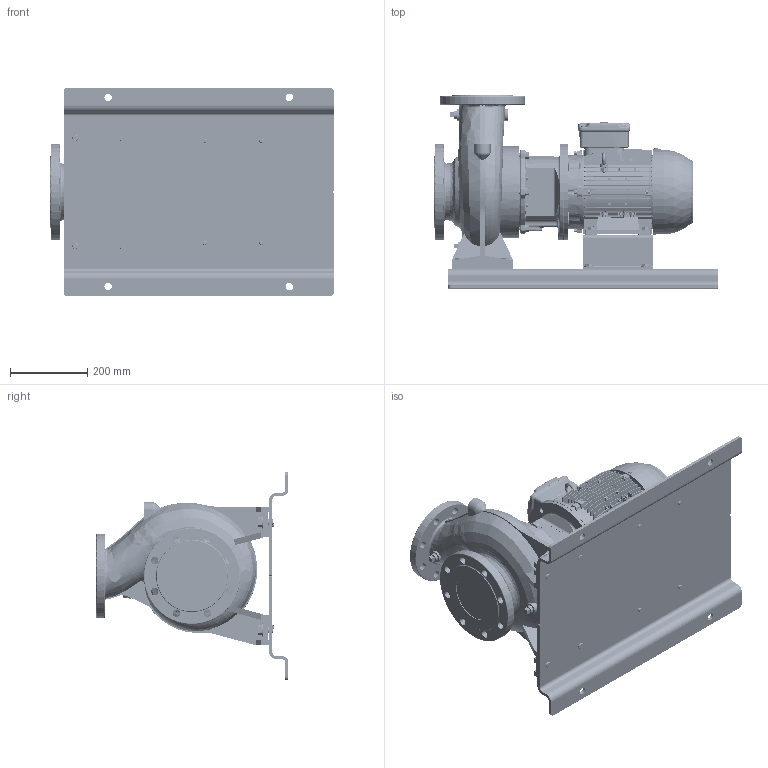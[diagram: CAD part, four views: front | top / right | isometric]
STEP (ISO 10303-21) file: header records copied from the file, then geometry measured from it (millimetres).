
FILE_DESCRIPTION (( 'STEP AP214' ), '1' );
FILE_NAME ('GSD4 100-160_4.0_(112M)_W21_BP.STEP', '2026-05-08T06:23:40', ( '' ), ( '' ), 'SwSTEP 2.0', 'SolidWorks 2024', '' );
FILE_SCHEMA (( 'AUTOMOTIVE_DESIGN' ));
Length unit declared in the file: millimetre
Products named in the file (13): Parametric bolt_SFT-A249B; Parametric bolt and washer_SFT-A253B; Parametric bolt and washer_SFT-A249B; N6S6 GSDA-662 F1-1832932-00; Parametric Flat Washer_M10; Parametric bolt_SFT-A351B; 140 x 88 - 271472192; Parametric Flat Washer_M16; GSD4 100-160_4.0_(112M)_W21_BP; Parametric bolt and washer_SFT-A351B; Parametric bolt_SFT-A253B; 100-160-112M_ﾃﾞﾌｫﾙﾄ; 112M ALIE3_W21T_B35
Assembly tree (22 placements, depth 3):
  GSD4 100-160_4.0_(112M)_W21_BP
    100-160-112M_ﾃﾞﾌｫﾙﾄ
    112M ALIE3_W21T_B35
    N6S6 GSDA-662 F1-1832932-00
    140 x 88 - 271472192
    Parametric bolt and washer_SFT-A351B  x4
      Parametric bolt_SFT-A351B
      Parametric Flat Washer_M16
    Parametric bolt and washer_SFT-A249B  x4
      Parametric bolt_SFT-A249B
      Parametric Flat Washer_M10
    Parametric bolt and washer_SFT-A253B  x4
      Parametric bolt_SFT-A253B
      Parametric Flat Washer_M10
Bounding box: 735 x 500 x 540 mm (x, y, z)
Volume: 30886856.4 mm3; surface area: 2729696.6 mm2
Topology: 38 solids, 40 shells, 5169 faces, 13788 edges, 8966 vertices
Faces by surface type: plane 2647, cylinder 1242, bspline 561, cone 357, torus 351, sphere 11
Entity records: 229508 total; most frequent: CARTESIAN_POINT 118430, ORIENTED_EDGE 25030, DIRECTION 19974, EDGE_CURVE 12515, VERTEX_POINT 8147, LINE 6984, VECTOR 6984, AXIS2_PLACEMENT_3D 6495
